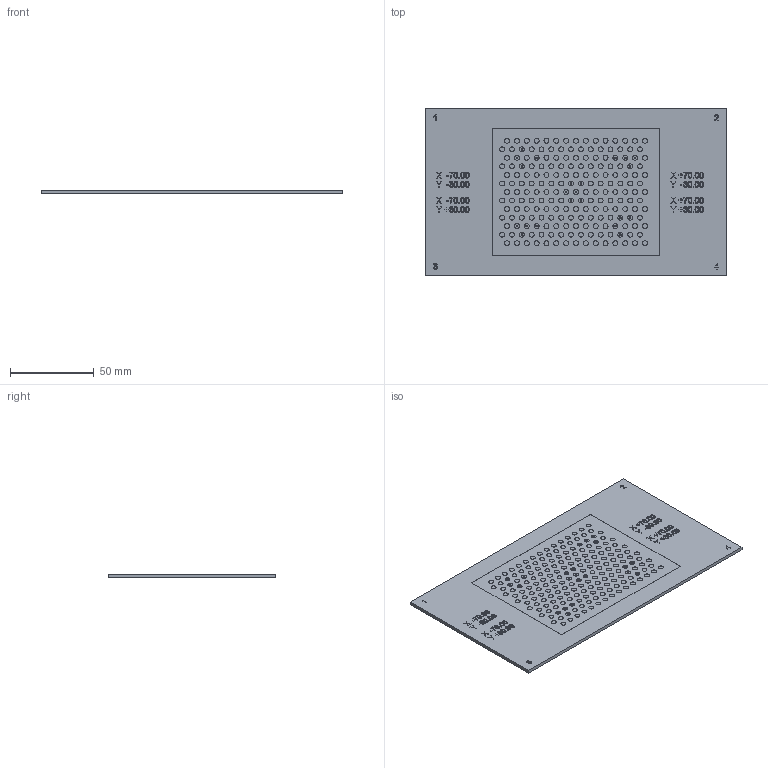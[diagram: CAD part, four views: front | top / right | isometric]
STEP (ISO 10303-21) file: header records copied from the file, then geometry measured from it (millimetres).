
FILE_DESCRIPTION(/* description */ (''),/* implementation_level */ '2;1');
FILE_NAME(/* name */ 'C:\#Vault-WorkDir\Konstruktions-Dokumente\Projekte\VISOR\Katalogzeichnungen\153-13574_ZCP 100-13x15-X01_NEU.stp',/* time_stamp */ '2022-06-23T12:31:38+02:00',/* author */ ('SensoPart'),/* organization */ ('SensoPart'),/* preprocessor_version */ 'ST-DEVELOPER v18.1',/* originating_system */ 'Autodesk Inventor 2022',/* authorisation */ '');
FILE_SCHEMA (('AUTOMOTIVE_DESIGN { 1 0 10303 214 3 1 1 }'));
Length unit declared in the file: millimetre
Products named in the file (1): GH-ENG-0028057
Bounding box: 180 x 100 x 2.05 mm (x, y, z)
Volume: 36321.3 mm3; surface area: 37267.8 mm2
Topology: 1 solids, 1 shells, 1125 faces, 2481 edges, 1671 vertices
Faces by surface type: plane 551, bspline 357, cylinder 217
Full cylindrical faces by diameter (mm): 0.977 x22, 2.937 x195
Entity records: 33658 total; most frequent: CARTESIAN_POINT 9782, ORIENTED_EDGE 4920, DIRECTION 3742, EDGE_CURVE 2460, VERTEX_POINT 1640, EDGE_LOOP 1428, LINE 1312, VECTOR 1312
